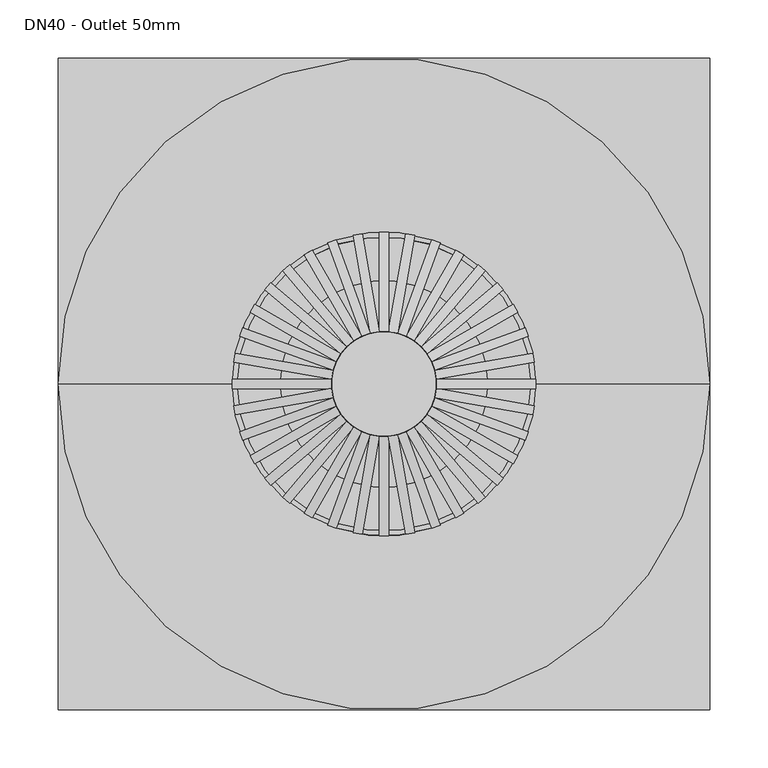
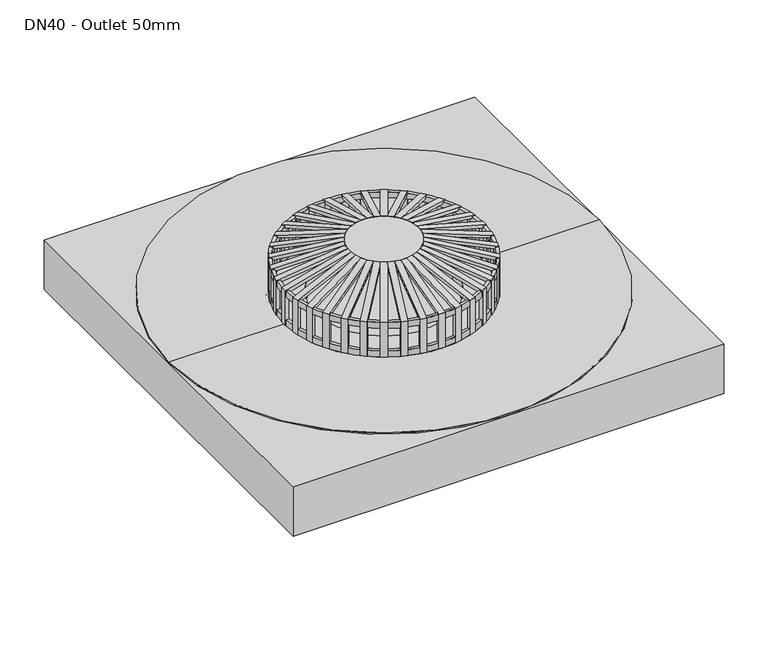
"""IFC4 building model written with IfcOpenShell, lengths in millimetres: sanitary terminal geometry, NLRS_52_PF_UN_Vacurain Flex trechter tbv PVC_Dyka : DN40 - Outlet 50mm."""

from ifc_helpers import new_model, si_unit, point, frame, origin, origin_with_axes, origin_2d, place, context, project, spatial, polyline, circle_curve, trimmed, segment, composite_curve, outline, extrude, source, transform, mapped, element, save
from ifc_brep_helpers import plane_surface, cylinder_surface, revolved_surface, advanced_brep


def dn40_outlet_50mm_e4824a1d(model_context):
    return source(origin(), model_context, "Body", "SolidModel", [
        advanced_brep(
        [(89.0, 0.0, -51.0), (89.0, 0.0, -24.0), (-89.0, 0.0, -24.0), (-89.0, 0.0, -51.0), (-57.0, 0.0, -51.0), (57.0, 0.0, -51.0), (-25.0, 0.0, -64.0), (25.0, 0.0, -64.0), (-25.0, 0.0, -70.0), (25.0, 0.0, -70.0), (133.5, 0.0, -24.0), (133.5, 0.0, -2.0), (-133.5, 0.0, -2.0), (-133.5, 0.0, -24.0), (280.0, 280.0, -2.0), (0.0, 280.0, -2.0), (-280.0, 280.0, -2.0), (-280.0, 0.0, -2.0), (-280.0, -280.0, -2.0), (0.0, -280.0, -2.0), (280.0, -280.0, -2.0), (280.0, 0.0, -2.0), (280.0, 280.0, -70.0), (280.0, -280.0, -70.0), (-280.0, -280.0, -70.0), (-280.0, 280.0, -70.0)],
        [
            (0, 1),
            (1, 2, circle_curve(frame((0.0, 0.0, -24.0), z_axis=(0.0, 0.0, 1.0), x_axis=(-1.0, 0.0, 0.0)), 89.0)),
            (2, 3),
            (3, 0, circle_curve(frame((0.0, 0.0, -51.0), z_axis=(0.0, 0.0, -1.0), x_axis=(-1.0, 0.0, 0.0)), 89.0)),
            (0, 3, circle_curve(frame((0.0, 0.0, -51.0), z_axis=(0.0, 0.0, -1.0), x_axis=(-1.0, 0.0, 0.0)), 89.0)),
            (2, 1, circle_curve(frame((0.0, 0.0, -24.0), z_axis=(0.0, 0.0, 1.0), x_axis=(-1.0, 0.0, 0.0)), 89.0)),
            (3, 4),
            (4, 5, circle_curve(frame((0.0, 0.0, -51.0), z_axis=(0.0, 0.0, -1.0), x_axis=(-1.0, 0.0, 0.0)), 57.0)),
            (5, 0),
            (5, 4, circle_curve(frame((0.0, 0.0, -51.0), z_axis=(0.0, 0.0, -1.0), x_axis=(-1.0, 0.0, 0.0)), 57.0)),
            (4, 6),
            (6, 7, circle_curve(frame((0.0, 0.0, -64.0), z_axis=(0.0, 0.0, -1.0), x_axis=(-1.0, 0.0, 0.0)), 25.0)),
            (7, 5),
            (7, 6, circle_curve(frame((0.0, 0.0, -64.0), z_axis=(0.0, 0.0, -1.0), x_axis=(-1.0, 0.0, 0.0)), 25.0)),
            (6, 8),
            (8, 9, circle_curve(frame((0.0, 0.0, -70.0), z_axis=(0.0, 0.0, -1.0), x_axis=(-1.0, 0.0, 0.0)), 25.0)),
            (9, 7),
            (9, 8, circle_curve(frame((0.0, 0.0, -70.0), z_axis=(0.0, 0.0, -1.0), x_axis=(-1.0, 0.0, 0.0)), 25.0)),
            (10, 11),
            (11, 12, circle_curve(frame((0.0, 0.0, -2.0), z_axis=(0.0, 0.0, 1.0), x_axis=(-1.0, 0.0, 0.0)), 133.5)),
            (12, 13),
            (13, 10, circle_curve(frame((0.0, 0.0, -24.0), z_axis=(0.0, 0.0, -1.0), x_axis=(-1.0, 0.0, 0.0)), 133.5)),
            (10, 13, circle_curve(frame((0.0, 0.0, -24.0), z_axis=(0.0, 0.0, -1.0), x_axis=(-1.0, 0.0, 0.0)), 133.5)),
            (12, 11, circle_curve(frame((0.0, 0.0, -2.0), z_axis=(0.0, 0.0, 1.0), x_axis=(-1.0, 0.0, 0.0)), 133.5)),
            (1, 10),
            (13, 2),
            (14, 15),
            (15, 16),
            (16, 17),
            (17, 18),
            (18, 19),
            (19, 20),
            (20, 21),
            (21, 14),
            (22, 23),
            (23, 24),
            (24, 25),
            (25, 22),
            (25, 16),
            (14, 22),
            (24, 18),
            (23, 20),
        ],
        [
            revolved_surface(polyline([(-89.0, 0.0, -51.0), (-89.0, 0.0, -24.0)]), (0.0, 0.0, 2214.3150031), (0.0, 0.0, -1.0)),
            plane_surface(frame((0.0, 0.0, -51.0), z_axis=(0.0, 0.0, 1.0), x_axis=(-1.0, 0.0, 0.0))),
            revolved_surface(polyline([(-25.0, 0.0, -64.0), (-57.0, 0.0, -51.0)]), (0.0, 0.0, 2214.3150031), (0.0, 0.0, -1.0)),
            revolved_surface(polyline([(-25.0, 0.0, -70.0), (-25.0, 0.0, -64.0)]), (0.0, 0.0, 2214.3150031), (0.0, 0.0, -1.0)),
            revolved_surface(polyline([(-133.5, 0.0, -24.0), (-133.5, 0.0, -2.0)]), (0.0, 0.0, 2214.3150031), (0.0, 0.0, -1.0)),
            plane_surface(frame((0.0, 0.0, -24.0), z_axis=(0.0, 0.0, 1.0), x_axis=(-1.0, 0.0, 0.0))),
            plane_surface(frame((-280.0, 280.0, -2.0), z_axis=(0.0, 0.0, 1.0), x_axis=(-1.0, 0.0, 0.0))),
            plane_surface(frame((-280.0, 280.0, -70.0), z_axis=(0.0, 0.0, -1.0), x_axis=(1.0, 0.0, 0.0))),
            plane_surface(frame((280.0, 280.0, -2.0), z_axis=(0.0, 1.0, 0.0), x_axis=(0.0, 0.0, -1.0))),
            plane_surface(frame((-280.0, 280.0, -2.0), z_axis=(-1.0, 0.0, 0.0), x_axis=(0.0, 0.0, -1.0))),
            plane_surface(frame((-280.0, -280.0, -2.0), z_axis=(0.0, -1.0, 0.0), x_axis=(0.0, 0.0, -1.0))),
            plane_surface(frame((280.0, -280.0, -2.0), z_axis=(1.0, 0.0, 0.0), x_axis=(0.0, 0.0, -1.0))),
        ],
        [
            (0, [[1, 2, 3, 4]]),
            (0, [[-1, 5, -3, 6]]),
            (1, [[-4, 7, 8, 9]]),
            (1, [[-5, -9, 10, -7]]),
            (2, [[-8, 11, 12, 13]]),
            (2, [[-10, -13, 14, -11]]),
            (3, [[-12, 15, 16, 17]]),
            (3, [[-14, -17, 18, -15]]),
            (4, [[19, 20, 21, 22]]),
            (4, [[-19, 23, -21, 24]]),
            (5, [[-2, 25, -22, 26]]),
            (5, [[-6, -26, -23, -25]]),
            (6, [[27, 28, 29, 30, 31, 32, 33, 34], [-20, -24]]),
            (7, [[35, 36, 37, 38], [-16, -18]]),
            (8, [[-38, 39, -28, -27, 40]]),
            (9, [[-37, 41, -30, -29, -39]]),
            (10, [[-36, 42, -32, -31, -41]]),
            (11, [[-35, -40, -34, -33, -42]]),
        ],
    ),
        extrude(outline(polyline([(0.0, -4.0), (0.0, 0.0), (44.2901338, 0.0), (67.144961, 82.5670868), (71.0, 81.5), (47.3333333, -4.0), (0.0, -4.0)])), frame((-120.2391971, 39.5067776, 0.0), z_axis=(0.3420201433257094, 0.9396926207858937, 0.0), x_axis=(0.0, 0.0, 1.0)), (0.0, 0.0, 1.0), 8.0),
        extrude(outline(polyline([(0.0, -4.0), (0.0, 0.0), (44.2901338, 0.0), (67.144961, 82.5670868), (71.0, 81.5), (47.3333333, -4.0), (0.0, -4.0)])), frame((-111.5522136, 59.7858984, 0.0), z_axis=(0.5000000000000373, 0.8660254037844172, 0.0), x_axis=(0.0, 0.0, 1.0)), (0.0, 0.0, 1.0), 8.0),
        extrude(outline(polyline([(0.0, -4.0), (0.0, 0.0), (44.2901338, 0.0), (67.144961, 82.5670868), (71.0, 81.5), (47.3333333, -4.0), (0.0, -4.0)])), frame((-99.4757725, 78.2484549, 0.0), z_axis=(0.6427876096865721, 0.7660444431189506, 0.0), x_axis=(0.0, 0.0, 1.0)), (0.0, 0.0, 1.0), 8.0),
        extrude(outline(polyline([(0.0, -4.0), (0.0, 0.0), (44.2901338, 0.0), (67.144961, 82.5670868), (71.0, 81.5), (47.3333333, -4.0), (0.0, -4.0)])), frame((-84.3768104, 94.3334716, 0.0), z_axis=(0.7660444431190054, 0.6427876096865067, 0.0), x_axis=(0.0, 0.0, 1.0)), (0.0, 0.0, 1.0), 8.0),
        extrude(outline(polyline([(0.0, -4.0), (0.0, 0.0), (44.2901338, 0.0), (67.144961, 82.5670868), (71.0, 81.5), (47.3333333, -4.0), (0.0, -4.0)])), frame((-66.7141016, 107.5522136, 0.0), z_axis=(0.8660254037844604, 0.49999999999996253, 0.0), x_axis=(0.0, 0.0, 1.0)), (0.0, 0.0, 1.0), 8.0),
        extrude(outline(polyline([(0.0, -3.9999999), (0.0, 0.0), (44.2901338, 0.0), (67.144961, 82.5670868), (71.0, 81.5), (47.3333333, -3.9999999), (0.0, -3.9999999)])), frame((-47.0243186, 117.503036, 0.0), z_axis=(0.9396926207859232, 0.34202014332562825, 0.0), x_axis=(0.0, 0.0, 1.0)), (0.0, 0.0, 1.0), 8.0),
        extrude(outline(polyline([(0.0, -4.0000001), (0.0, 0.0), (44.2901338, 0.0), (67.144961, 82.5670868), (71.0, 81.4999999), (47.3333333, -4.0000001), (0.0, -4.0000001)])), frame((-25.9057255, 123.883588, 0.0), z_axis=(0.9848077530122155, 0.17364817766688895, 0.0), x_axis=(0.0, 0.0, 1.0)), (0.0, 0.0, 1.0), 8.0),
        extrude(outline(polyline([(130.5, 0.0), (126.5, 0.0), (126.5, 44.2901338), (43.9329132, 67.144961), (45.0, 71.0), (130.5, 47.3333333), (130.5, 0.0)])), frame((-4.0, 0.0, 0.0), z_axis=(1.0, 0.0, 0.0), x_axis=(0.0, 1.0, 0.0)), (0.0, 0.0, 1.0), 8.0),
        extrude(outline(polyline([(0.0, -4.0000001), (0.0, 0.0), (47.3333333, 0.0), (71.0, -85.5), (67.144961, -86.5670869), (44.2901338, -4.0000001), (0.0, -4.0000001)])), frame((26.6003182, 127.8228191, 0.0), z_axis=(-0.9848077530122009, 0.1736481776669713, 0.0), x_axis=(0.0, 0.0, 1.0)), (0.0, 0.0, 1.0), 8.0),
        extrude(outline(polyline([(0.0, -3.9999999), (0.0, 0.0), (47.3333333, 0.0), (71.0, -85.4999999), (67.144961, -86.5670868), (44.2901338, -3.9999999), (0.0, -3.9999999)])), frame((48.3923992, 121.2618064, 0.0), z_axis=(-0.9396926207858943, 0.3420201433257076, 0.0), x_axis=(0.0, 0.0, 1.0)), (0.0, 0.0, 1.0), 8.0),
        extrude(outline(polyline([(0.0, -4.0), (0.0, 0.0), (47.3333333, 0.0), (71.0, -85.5), (67.144961, -86.5670868), (44.2901338, -4.0), (0.0, -4.0)])), frame((68.7141016, 111.0163152, 0.0), z_axis=(-0.8660254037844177, 0.5000000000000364, 0.0), x_axis=(0.0, 0.0, 1.0)), (0.0, 0.0, 1.0), 8.0),
        extrude(outline(polyline([(0.0, -4.0), (0.0, 0.0), (47.3333333, 0.0), (71.0, -85.5), (67.144961, -86.5670868), (44.2901338, -4.0), (0.0, -4.0)])), frame((86.9479608, 97.3976494, 0.0), z_axis=(-0.7660444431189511, 0.6427876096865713, 0.0), x_axis=(0.0, 0.0, 1.0)), (0.0, 0.0, 1.0), 8.0),
        extrude(outline(polyline([(0.0, -4.0), (0.0, 0.0), (47.3333333, 0.0), (71.0, -85.5), (67.144961, -86.5670868), (44.2901338, -4.0), (0.0, -4.0)])), frame((102.5399503, 80.8196053, 0.0), z_axis=(-0.642787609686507, 0.7660444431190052, 0.0), x_axis=(0.0, 0.0, 1.0)), (0.0, 0.0, 1.0), 8.0),
        extrude(outline(polyline([(0.0, -4.0), (0.0, 0.0), (47.3333333, 0.0), (71.0, -85.5), (67.144961, -86.5670868), (44.2901338, -4.0), (0.0, -4.0)])), frame((115.0163152, 61.7858984, 0.0), z_axis=(-0.4999999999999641, 0.8660254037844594, 0.0), x_axis=(0.0, 0.0, 1.0)), (0.0, 0.0, 1.0), 8.0),
        extrude(outline(polyline([(0.0, -4.0), (0.0, 0.0), (47.3333333, 0.0), (71.0, -85.5), (67.144961, -86.5670868), (44.2901338, -4.0), (0.0, -4.0)])), frame((123.9979676, 40.8748582, 0.0), z_axis=(-0.3420201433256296, 0.9396926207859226, 0.0), x_axis=(0.0, 0.0, 1.0)), (0.0, 0.0, 1.0), 8.0),
        extrude(outline(polyline([(0.0, -4.0), (0.0, 0.0), (47.3333333, 0.0), (71.0, -85.5), (67.144961, -86.5670869), (44.2901338, -4.0), (0.0, -4.0)])), frame((129.2120045, 18.7218562, 0.0), z_axis=(-0.17364817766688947, 0.9848077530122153, 0.0), x_axis=(0.0, 0.0, 1.0)), (0.0, 0.0, 1.0), 8.0),
        extrude(outline(polyline([(0.0, 126.5), (0.0, 130.5), (47.3333333, 130.5), (71.0, 45.0), (67.144961, 43.9329132), (44.2901338, 126.5), (0.0, 126.5)])), frame((0.0, -4.0, 0.0), z_axis=(0.0, 1.0, 0.0), x_axis=(0.0, 0.0, 1.0)), (0.0, 0.0, 1.0), 8.0),
        extrude(outline(polyline([(0.0, -4.0000001), (0.0, 0.0), (47.3333333, 0.0), (71.0, -85.5), (67.144961, -86.5670869), (44.2901338, -4.0000001), (0.0, -4.0000001)])), frame((127.8228191, -26.6003182, 0.0), z_axis=(0.17364817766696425, 0.9848077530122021, 0.0), x_axis=(0.0, 0.0, 1.0)), (0.0, 0.0, 1.0), 8.0),
        extrude(outline(polyline([(0.0, -3.9999999), (0.0, 0.0), (47.3333333, 0.0), (71.0, -85.4999999), (67.144961, -86.5670868), (44.2901338, -3.9999999), (0.0, -3.9999999)])), frame((121.2618064, -48.3923992, 0.0), z_axis=(0.3420201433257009, 0.9396926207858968, 0.0), x_axis=(0.0, 0.0, 1.0)), (0.0, 0.0, 1.0), 8.0),
        extrude(outline(polyline([(0.0, -4.0), (0.0, 0.0), (47.3333333, 0.0), (71.0, -85.5), (67.144961, -86.5670868), (44.2901338, -4.0), (0.0, -4.0)])), frame((111.0163152, -68.7141016, 0.0), z_axis=(0.5000000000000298, 0.8660254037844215, 0.0), x_axis=(0.0, 0.0, 1.0)), (0.0, 0.0, 1.0), 8.0),
        extrude(outline(polyline([(0.0, -4.0), (0.0, 0.0), (47.3333333, 0.0), (71.0, -85.5), (67.144961, -86.5670868), (44.2901338, -4.0), (0.0, -4.0)])), frame((97.3976494, -86.9479608, 0.0), z_axis=(0.6427876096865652, 0.7660444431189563, 0.0), x_axis=(0.0, 0.0, 1.0)), (0.0, 0.0, 1.0), 8.0),
        extrude(outline(polyline([(0.0, -4.0), (0.0, 0.0), (47.3333333, 0.0), (71.0, -85.5), (67.144961, -86.5670868), (44.2901338, -4.0), (0.0, -4.0)])), frame((80.8196053, -102.5399503, 0.0), z_axis=(0.7660444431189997, 0.6427876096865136, 0.0), x_axis=(0.0, 0.0, 1.0)), (0.0, 0.0, 1.0), 8.0),
        extrude(outline(polyline([(0.0, -4.0), (0.0, 0.0), (47.3333333, 0.0), (71.0, -85.5), (67.144961, -86.5670868), (44.2901338, -4.0), (0.0, -4.0)])), frame((61.7858984, -115.0163152, 0.0), z_axis=(0.8660254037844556, 0.49999999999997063, 0.0), x_axis=(0.0, 0.0, 1.0)), (0.0, 0.0, 1.0), 8.0),
        extrude(outline(polyline([(0.0, -4.0), (0.0, 0.0), (47.3333333, 0.0), (71.0, -85.5), (67.144961, -86.5670868), (44.2901338, -4.0), (0.0, -4.0)])), frame((40.8748582, -123.9979676, 0.0), z_axis=(0.93969262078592, 0.3420201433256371, 0.0), x_axis=(0.0, 0.0, 1.0)), (0.0, 0.0, 1.0), 8.0),
        extrude(outline(polyline([(0.0, -4.0), (0.0, 0.0), (47.3333333, 0.0), (71.0, -85.5), (67.144961, -86.5670869), (44.2901338, -4.0), (0.0, -4.0)])), frame((18.7218562, -129.2120045, 0.0), z_axis=(0.9848077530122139, 0.1736481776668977, 0.0), x_axis=(0.0, 0.0, 1.0)), (0.0, 0.0, 1.0), 8.0),
        extrude(outline(polyline([(-126.5, 0.0), (-130.5, 0.0), (-130.5, 47.3333333), (-45.0, 71.0), (-43.9329132, 67.144961), (-126.5, 44.2901338), (-126.5, 0.0)])), frame((-4.0, 0.0, 0.0), z_axis=(1.0, 0.0, 0.0), x_axis=(0.0, 1.0, 0.0)), (0.0, 0.0, 1.0), 8.0),
        extrude(outline(polyline([(0.0, -4.0), (0.0, 0.0), (44.2901338, 0.0), (67.144961, 82.5670869), (71.0, 81.5), (47.3333333, -4.0), (0.0, -4.0)])), frame((-18.0272635, -125.2727735, 0.0), z_axis=(-0.9848077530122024, 0.1736481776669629, 0.0), x_axis=(0.0, 0.0, 1.0)), (0.0, 0.0, 1.0), 8.0),
        extrude(outline(polyline([(0.0, -4.0), (0.0, 0.0), (44.2901338, 0.0), (67.144961, 82.5670868), (71.0, 81.5), (47.3333333, -4.0), (0.0, -4.0)])), frame((-39.5067776, -120.2391971, 0.0), z_axis=(-0.9396926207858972, 0.3420201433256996, 0.0), x_axis=(0.0, 0.0, 1.0)), (0.0, 0.0, 1.0), 8.0),
        extrude(outline(polyline([(0.0, -4.0), (0.0, 0.0), (44.2901338, 0.0), (67.144961, 82.5670868), (71.0, 81.5), (47.3333333, -4.0), (0.0, -4.0)])), frame((-59.7858984, -111.5522136, 0.0), z_axis=(-0.8660254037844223, 0.5000000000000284, 0.0), x_axis=(0.0, 0.0, 1.0)), (0.0, 0.0, 1.0), 8.0),
        extrude(outline(polyline([(0.0, -4.0), (0.0, 0.0), (44.2901338, 0.0), (67.144961, 82.5670868), (71.0, 81.5), (47.3333333, -4.0), (0.0, -4.0)])), frame((-78.2484549, -99.4757725, 0.0), z_axis=(-0.7660444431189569, 0.6427876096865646, 0.0), x_axis=(0.0, 0.0, 1.0)), (0.0, 0.0, 1.0), 8.0),
        extrude(outline(polyline([(0.0, -4.0), (0.0, 0.0), (44.2901338, 0.0), (67.144961, 82.5670868), (71.0, 81.5), (47.3333333, -4.0), (0.0, -4.0)])), frame((-94.3334716, -84.3768104, 0.0), z_axis=(-0.6427876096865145, 0.7660444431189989, 0.0), x_axis=(0.0, 0.0, 1.0)), (0.0, 0.0, 1.0), 8.0),
        extrude(outline(polyline([(0.0, -4.0), (0.0, 0.0), (44.2901338, 0.0), (67.144961, 82.5670868), (71.0, 81.5), (47.3333333, -4.0), (0.0, -4.0)])), frame((-107.5522136, -66.7141016, 0.0), z_axis=(-0.499999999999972, 0.8660254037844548, 0.0), x_axis=(0.0, 0.0, 1.0)), (0.0, 0.0, 1.0), 8.0),
        extrude(outline(polyline([(0.0, -3.9999999), (0.0, 0.0), (44.2901338, 0.0), (67.144961, 82.5670868), (71.0, 81.5), (47.3333333, -3.9999999), (0.0, -3.9999999)])), frame((-117.503036, -47.0243186, 0.0), z_axis=(-0.34202014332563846, 0.9396926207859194, 0.0), x_axis=(0.0, 0.0, 1.0)), (0.0, 0.0, 1.0), 8.0),
        extrude(outline(polyline([(0.0, -4.0000001), (0.0, 0.0), (44.2901338, 0.0), (67.144961, 82.5670868), (71.0, 81.4999999), (47.3333333, -4.0000001), (0.0, -4.0000001)])), frame((-123.883588, -25.9057255, 0.0), z_axis=(-0.1736481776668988, 0.9848077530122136, 0.0), x_axis=(0.0, 0.0, 1.0)), (0.0, 0.0, 1.0), 8.0),
        extrude(outline(polyline([(0.0, -4.0), (0.0, 0.0), (44.2901338, 0.0), (67.144961, 82.5670869), (71.0, 81.5), (47.3333333, -4.0), (0.0, -4.0)])), frame((-125.2727735, 18.0272635, 0.0), z_axis=(0.17364817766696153, 0.9848077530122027, 0.0), x_axis=(0.0, 0.0, 1.0)), (0.0, 0.0, 1.0), 8.0),
        extrude(outline(polyline([(0.0, -130.5), (0.0, -126.5), (44.2901338, -126.5), (67.144961, -43.9329132), (71.0, -45.0), (47.3333333, -130.5), (0.0, -130.5)])), frame((0.0, -4.0, 0.0), z_axis=(0.0, 1.0, 0.0), x_axis=(0.0, 0.0, 1.0)), (0.0, 0.0, 1.0), 8.0),
        extrude(outline(composite_curve([segment(trimmed(circle_curve(origin_2d(), 45.0), [point((-45.0, 0.0))], [point((45.0, 0.0))], False, "CARTESIAN"), True, "CONTINUOUS"), segment(trimmed(circle_curve(origin_2d(), 45.0), [point((45.0, 0.0))], [point((-45.0, 0.0))], False, "CARTESIAN"), True, "CONTINUOUS")], self_intersect=False)), frame((0.0, 0.0, 63.0), z_axis=(0.0, 0.0, 1.0), x_axis=(1.0, 0.0, 0.0)), (0.0, 0.0, 1.0), 8.0),
        advanced_brep(
        [(-130.5, 0.0, 0.0), (130.5, 0.0, 0.0), (126.5, 0.0, 0.0), (-126.5, 0.0, 0.0), (-130.5, 0.0, 8.0), (130.5, 0.0, 8.0), (-126.5, 0.0, 8.0), (126.5, 0.0, 8.0)],
        [
            (0, 1, circle_curve(frame((0.0, 0.0, 0.0), z_axis=(0.0, 0.0, -1.0), x_axis=(1.0, 0.0, 0.0)), 130.5)),
            (1, 2),
            (2, 3, circle_curve(origin_with_axes(), 126.5)),
            (3, 0),
            (1, 0, circle_curve(frame((0.0, 0.0, 0.0), z_axis=(0.0, 0.0, -1.0), x_axis=(1.0, 0.0, 0.0)), 130.5)),
            (3, 2, circle_curve(origin_with_axes(), 126.5)),
            (4, 5, circle_curve(frame((0.0, 0.0, 8.0), z_axis=(0.0, 0.0, -1.0), x_axis=(1.0, 0.0, 0.0)), 130.5)),
            (5, 1),
            (0, 4),
            (5, 4, circle_curve(frame((0.0, 0.0, 8.0), z_axis=(0.0, 0.0, -1.0), x_axis=(1.0, 0.0, 0.0)), 130.5)),
            (6, 7, circle_curve(frame((0.0, 0.0, 8.0), z_axis=(0.0, 0.0, -1.0), x_axis=(1.0, 0.0, 0.0)), 126.5)),
            (7, 5),
            (4, 6),
            (7, 6, circle_curve(frame((0.0, 0.0, 8.0), z_axis=(0.0, 0.0, -1.0), x_axis=(1.0, 0.0, 0.0)), 126.5)),
            (2, 7),
            (6, 3),
        ],
        [
            plane_surface(frame((0.0, 0.0, 0.0), z_axis=(0.0, 0.0, -1.0), x_axis=(1.0, 0.0, 0.0))),
            cylinder_surface(frame((0.0, 0.0, 2214.3150031), z_axis=(0.0, 0.0, 1.0), x_axis=(1.0, 0.0, 0.0)), 130.5),
            plane_surface(frame((0.0, 0.0, 8.0), z_axis=(0.0, 0.0, 1.0), x_axis=(1.0, 0.0, 0.0))),
            revolved_surface(polyline([(126.5, 0.0, 8.0), (126.5, 0.0, 0.0)]), (0.0, 0.0, 2214.3150031), (0.0, 0.0, 1.0)),
        ],
        [
            (0, [[1, 2, 3, 4]]),
            (0, [[5, -4, 6, -2]]),
            (1, [[7, 8, -1, 9]]),
            (1, [[10, -9, -5, -8]]),
            (2, [[11, 12, -7, 13]]),
            (2, [[14, -13, -10, -12]]),
            (3, [[-3, 15, -11, 16]]),
            (3, [[-6, -16, -14, -15]]),
        ],
    ),
        advanced_brep(
        [(-130.5, 0.0, 39.3333333), (130.5, 0.0, 39.3333333), (126.5, 0.0, 39.3333333), (-126.5, 0.0, 39.3333333), (-130.5, 0.0, 47.3333333), (130.5, 0.0, 47.3333333), (-126.5, 0.0, 47.3333333), (126.5, 0.0, 47.3333333)],
        [
            (0, 1, circle_curve(frame((0.0, 0.0, 39.3333333), z_axis=(0.0, 0.0, -1.0), x_axis=(1.0, 0.0, 0.0)), 130.5)),
            (1, 2),
            (2, 3, circle_curve(frame((0.0, 0.0, 39.3333333), z_axis=(0.0, 0.0, 1.0), x_axis=(1.0, 0.0, 0.0)), 126.5)),
            (3, 0),
            (1, 0, circle_curve(frame((0.0, 0.0, 39.3333333), z_axis=(0.0, 0.0, -1.0), x_axis=(1.0, 0.0, 0.0)), 130.5)),
            (3, 2, circle_curve(frame((0.0, 0.0, 39.3333333), z_axis=(0.0, 0.0, 1.0), x_axis=(1.0, 0.0, 0.0)), 126.5)),
            (4, 5, circle_curve(frame((0.0, 0.0, 47.3333333), z_axis=(0.0, 0.0, -1.0), x_axis=(1.0, 0.0, 0.0)), 130.5)),
            (5, 1),
            (0, 4),
            (5, 4, circle_curve(frame((0.0, 0.0, 47.3333333), z_axis=(0.0, 0.0, -1.0), x_axis=(1.0, 0.0, 0.0)), 130.5)),
            (6, 7, circle_curve(frame((0.0, 0.0, 47.3333333), z_axis=(0.0, 0.0, -1.0), x_axis=(1.0, 0.0, 0.0)), 126.5)),
            (7, 5),
            (4, 6),
            (7, 6, circle_curve(frame((0.0, 0.0, 47.3333333), z_axis=(0.0, 0.0, -1.0), x_axis=(1.0, 0.0, 0.0)), 126.5)),
            (2, 7),
            (6, 3),
        ],
        [
            plane_surface(frame((0.0, 0.0, 39.3333333), z_axis=(0.0, 0.0, -1.0), x_axis=(1.0, 0.0, 0.0))),
            cylinder_surface(frame((0.0, 0.0, 2214.3150031), z_axis=(0.0, 0.0, 1.0), x_axis=(1.0, 0.0, 0.0)), 130.5),
            plane_surface(frame((0.0, 0.0, 47.3333333), z_axis=(0.0, 0.0, 1.0), x_axis=(1.0, 0.0, 0.0))),
            revolved_surface(polyline([(126.5, 0.0, 47.33333330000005), (126.5, 0.0, 39.33333330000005)]), (0.0, 0.0, 2214.3150031), (0.0, 0.0, 1.0)),
        ],
        [
            (0, [[1, 2, 3, 4]]),
            (0, [[5, -4, 6, -2]]),
            (1, [[7, 8, -1, 9]]),
            (1, [[10, -9, -5, -8]]),
            (2, [[11, 12, -7, 13]]),
            (2, [[14, -13, -10, -12]]),
            (3, [[-3, 15, -11, 16]]),
            (3, [[-6, -16, -14, -15]]),
        ],
    ),
        extrude(outline(composite_curve([segment(trimmed(circle_curve(origin_2d(), 130.5), [point((-130.5, 0.0))], [point((130.5, 0.0))], False, "CARTESIAN"), True, "CONTINUOUS"), segment(trimmed(circle_curve(origin_2d(), 130.5), [point((130.5, 0.0))], [point((-130.5, 0.0))], False, "CARTESIAN"), True, "CONTINUOUS")], self_intersect=False), holes=[composite_curve([segment(trimmed(circle_curve(origin_2d(), 89.0), [point((-89.0, 0.0))], [point((89.0, 0.0))], True, "CARTESIAN"), True, "CONTINUOUS"), segment(trimmed(circle_curve(origin_2d(), 89.0), [point((89.0, 0.0))], [point((-89.0, 0.0))], True, "CARTESIAN"), True, "CONTINUOUS")], self_intersect=False)]), frame((0.0, 0.0, -23.0), z_axis=(0.0, 0.0, 1.0), x_axis=(1.0, 0.0, 0.0)), (0.0, 0.0, 1.0), 23.0),
        advanced_brep(
        [(280.0, 0.0, 0.0), (-280.0, 0.0, 0.0), (-130.5, 0.0, 0.0), (130.5, 0.0, 0.0), (89.0, 0.0, -51.0), (-89.0, 0.0, -51.0), (-89.0, 0.0, -24.0), (89.0, 0.0, -24.0), (57.0, 0.0, -51.0), (-57.0, 0.0, -51.0), (25.0, 0.0, -64.0), (-25.0, 0.0, -64.0), (25.0, 0.0, -161.0), (-25.0, 0.0, -161.0), (0.0, 0.0, -161.0), (-105.1648088, 41.9038358, -4.0), (-97.1648088, 41.9038358, -4.0), (-105.1648088, -41.9038358, -4.0), (-97.1648088, -41.9038358, -4.0), (97.1648088, 41.9038358, -4.0), (105.1648088, 41.9038358, -4.0), (97.1648088, -41.9038358, -4.0), (105.1648088, -41.9038358, -4.0), (-45.9038358, -101.1648088, -4.0), (-37.9038358, -101.1648088, -4.0), (37.9038358, -101.1648088, -4.0), (45.9038358, -101.1648088, -4.0), (-45.9038358, 101.1648088, -4.0), (-37.9038358, 101.1648088, -4.0), (37.9038358, 101.1648088, -4.0), (45.9038358, 101.1648088, -4.0), (-105.1648088, 41.9038358, -23.0), (-97.1648088, 41.9038358, -23.0), (-105.1648088, -41.9038358, -23.0), (-97.1648088, -41.9038358, -23.0), (97.1648088, 41.9038358, -23.0), (105.1648088, 41.9038358, -23.0), (97.1648088, -41.9038358, -23.0), (105.1648088, -41.9038358, -23.0), (-45.9038358, -101.1648088, -23.0), (-37.9038358, -101.1648088, -23.0), (37.9038358, -101.1648088, -23.0), (45.9038358, -101.1648088, -23.0), (-45.9038358, 101.1648088, -23.0), (-37.9038358, 101.1648088, -23.0), (37.9038358, 101.1648088, -23.0), (45.9038358, 101.1648088, -23.0), (133.5, 0.0, -24.0), (-133.5, 0.0, -24.0), (-133.5, 0.0, -2.0), (133.5, 0.0, -2.0), (280.0, 0.0, -2.0), (-280.0, 0.0, -2.0), (-130.5, 0.0, -23.0), (130.5, 0.0, -23.0)],
        [
            (0, 1, circle_curve(frame((0.0, 0.0, 0.0), z_axis=(0.0, 0.0, 1.0), x_axis=(-1.0, 0.0, 0.0)), 280.0)),
            (1, 2),
            (2, 3, circle_curve(frame((0.0, 0.0, 0.0), z_axis=(0.0, 0.0, -1.0), x_axis=(1.0, 0.0, 0.0)), 130.5)),
            (3, 0),
            (1, 0, circle_curve(frame((0.0, 0.0, 0.0), z_axis=(0.0, 0.0, 1.0), x_axis=(-1.0, 0.0, 0.0)), 280.0)),
            (3, 2, circle_curve(frame((0.0, 0.0, 0.0), z_axis=(0.0, 0.0, -1.0), x_axis=(1.0, 0.0, 0.0)), 130.5)),
            (4, 5, circle_curve(frame((0.0, 0.0, -51.0), z_axis=(0.0, 0.0, 1.0), x_axis=(-1.0, 0.0, 0.0)), 89.0)),
            (5, 6),
            (6, 7, circle_curve(frame((0.0, 0.0, -24.0), z_axis=(0.0, 0.0, -1.0), x_axis=(-1.0, 0.0, 0.0)), 89.0)),
            (7, 4),
            (5, 4, circle_curve(frame((0.0, 0.0, -51.0), z_axis=(0.0, 0.0, 1.0), x_axis=(-1.0, 0.0, 0.0)), 89.0)),
            (7, 6, circle_curve(frame((0.0, 0.0, -24.0), z_axis=(0.0, 0.0, -1.0), x_axis=(-1.0, 0.0, 0.0)), 89.0)),
            (4, 8),
            (8, 9, circle_curve(frame((0.0, 0.0, -51.0), z_axis=(0.0, 0.0, 1.0), x_axis=(-1.0, 0.0, 0.0)), 57.0)),
            (9, 5),
            (9, 8, circle_curve(frame((0.0, 0.0, -51.0), z_axis=(0.0, 0.0, 1.0), x_axis=(-1.0, 0.0, 0.0)), 57.0)),
            (8, 10),
            (10, 11, circle_curve(frame((0.0, 0.0, -64.0), z_axis=(0.0, 0.0, 1.0), x_axis=(-1.0, 0.0, 0.0)), 25.0)),
            (11, 9),
            (11, 10, circle_curve(frame((0.0, 0.0, -64.0), z_axis=(0.0, 0.0, 1.0), x_axis=(-1.0, 0.0, 0.0)), 25.0)),
            (10, 12),
            (12, 13, circle_curve(frame((0.0, 0.0, -161.0), z_axis=(0.0, 0.0, 1.0), x_axis=(-1.0, 0.0, 0.0)), 25.0)),
            (13, 11),
            (13, 12, circle_curve(frame((0.0, 0.0, -161.0), z_axis=(0.0, 0.0, 1.0), x_axis=(-1.0, 0.0, 0.0)), 25.0)),
            (12, 14),
            (14, 13),
            (15, 16, circle_curve(frame((-101.1648088, 41.9038358, -4.0), z_axis=(0.0, 0.0, 1.0), x_axis=(1.0, 0.0, 0.0)), 4.0)),
            (16, 15, circle_curve(frame((-101.1648088, 41.9038358, -4.0), z_axis=(0.0, 0.0, 1.0), x_axis=(1.0, 0.0, 0.0)), 4.0)),
            (17, 18, circle_curve(frame((-101.1648088, -41.9038358, -4.0), z_axis=(0.0, 0.0, 1.0), x_axis=(1.0, 0.0, 0.0)), 4.0)),
            (18, 17, circle_curve(frame((-101.1648088, -41.9038358, -4.0), z_axis=(0.0, 0.0, 1.0), x_axis=(1.0, 0.0, 0.0)), 4.0)),
            (19, 20, circle_curve(frame((101.1648088, 41.9038358, -4.0), z_axis=(0.0, 0.0, 1.0), x_axis=(1.0, 0.0, 0.0)), 4.0)),
            (20, 19, circle_curve(frame((101.1648088, 41.9038358, -4.0), z_axis=(0.0, 0.0, 1.0), x_axis=(1.0, 0.0, 0.0)), 4.0)),
            (21, 22, circle_curve(frame((101.1648088, -41.9038358, -4.0), z_axis=(0.0, 0.0, 1.0), x_axis=(1.0, 0.0, 0.0)), 4.0)),
            (22, 21, circle_curve(frame((101.1648088, -41.9038358, -4.0), z_axis=(0.0, 0.0, 1.0), x_axis=(1.0, 0.0, 0.0)), 4.0)),
            (23, 24, circle_curve(frame((-41.9038358, -101.1648088, -4.0), z_axis=(0.0, 0.0, 1.0), x_axis=(1.0, 0.0, 0.0)), 4.0)),
            (24, 23, circle_curve(frame((-41.9038358, -101.1648088, -4.0), z_axis=(0.0, 0.0, 1.0), x_axis=(1.0, 0.0, 0.0)), 4.0)),
            (25, 26, circle_curve(frame((41.9038358, -101.1648088, -4.0), z_axis=(0.0, 0.0, 1.0), x_axis=(1.0, 0.0, 0.0)), 4.0)),
            (26, 25, circle_curve(frame((41.9038358, -101.1648088, -4.0), z_axis=(0.0, 0.0, 1.0), x_axis=(1.0, 0.0, 0.0)), 4.0)),
            (27, 28, circle_curve(frame((-41.9038358, 101.1648088, -4.0), z_axis=(0.0, 0.0, 1.0), x_axis=(1.0, 0.0, 0.0)), 4.0)),
            (28, 27, circle_curve(frame((-41.9038358, 101.1648088, -4.0), z_axis=(0.0, 0.0, 1.0), x_axis=(1.0, 0.0, 0.0)), 4.0)),
            (29, 30, circle_curve(frame((41.9038358, 101.1648088, -4.0), z_axis=(0.0, 0.0, 1.0), x_axis=(1.0, 0.0, 0.0)), 4.0)),
            (30, 29, circle_curve(frame((41.9038358, 101.1648088, -4.0), z_axis=(0.0, 0.0, 1.0), x_axis=(1.0, 0.0, 0.0)), 4.0)),
            (15, 31),
            (31, 32, circle_curve(frame((-101.1648088, 41.9038358, -23.0), z_axis=(0.0, 0.0, 1.0), x_axis=(1.0, 0.0, 0.0)), 4.0)),
            (32, 16),
            (32, 31, circle_curve(frame((-101.1648088, 41.9038358, -23.0), z_axis=(0.0, 0.0, 1.0), x_axis=(1.0, 0.0, 0.0)), 4.0)),
            (17, 33),
            (33, 34, circle_curve(frame((-101.1648088, -41.9038358, -23.0), z_axis=(0.0, 0.0, 1.0), x_axis=(1.0, 0.0, 0.0)), 4.0)),
            (34, 18),
            (34, 33, circle_curve(frame((-101.1648088, -41.9038358, -23.0), z_axis=(0.0, 0.0, 1.0), x_axis=(1.0, 0.0, 0.0)), 4.0)),
            (19, 35),
            (35, 36, circle_curve(frame((101.1648088, 41.9038358, -23.0), z_axis=(0.0, 0.0, 1.0), x_axis=(1.0, 0.0, 0.0)), 4.0)),
            (36, 20),
            (36, 35, circle_curve(frame((101.1648088, 41.9038358, -23.0), z_axis=(0.0, 0.0, 1.0), x_axis=(1.0, 0.0, 0.0)), 4.0)),
            (21, 37),
            (37, 38, circle_curve(frame((101.1648088, -41.9038358, -23.0), z_axis=(0.0, 0.0, 1.0), x_axis=(1.0, 0.0, 0.0)), 4.0)),
            (38, 22),
            (38, 37, circle_curve(frame((101.1648088, -41.9038358, -23.0), z_axis=(0.0, 0.0, 1.0), x_axis=(1.0, 0.0, 0.0)), 4.0)),
            (23, 39),
            (39, 40, circle_curve(frame((-41.9038358, -101.1648088, -23.0), z_axis=(0.0, 0.0, 1.0), x_axis=(1.0, 0.0, 0.0)), 4.0)),
            (40, 24),
            (40, 39, circle_curve(frame((-41.9038358, -101.1648088, -23.0), z_axis=(0.0, 0.0, 1.0), x_axis=(1.0, 0.0, 0.0)), 4.0)),
            (25, 41),
            (41, 42, circle_curve(frame((41.9038358, -101.1648088, -23.0), z_axis=(0.0, 0.0, 1.0), x_axis=(1.0, 0.0, 0.0)), 4.0)),
            (42, 26),
            (42, 41, circle_curve(frame((41.9038358, -101.1648088, -23.0), z_axis=(0.0, 0.0, 1.0), x_axis=(1.0, 0.0, 0.0)), 4.0)),
            (27, 43),
            (43, 44, circle_curve(frame((-41.9038358, 101.1648088, -23.0), z_axis=(0.0, 0.0, 1.0), x_axis=(1.0, 0.0, 0.0)), 4.0)),
            (44, 28),
            (44, 43, circle_curve(frame((-41.9038358, 101.1648088, -23.0), z_axis=(0.0, 0.0, 1.0), x_axis=(1.0, 0.0, 0.0)), 4.0)),
            (29, 45),
            (45, 46, circle_curve(frame((41.9038358, 101.1648088, -23.0), z_axis=(0.0, 0.0, 1.0), x_axis=(1.0, 0.0, 0.0)), 4.0)),
            (46, 30),
            (46, 45, circle_curve(frame((41.9038358, 101.1648088, -23.0), z_axis=(0.0, 0.0, 1.0), x_axis=(1.0, 0.0, 0.0)), 4.0)),
            (47, 48, circle_curve(frame((0.0, 0.0, -24.0), z_axis=(0.0, 0.0, 1.0), x_axis=(-1.0, 0.0, 0.0)), 133.5)),
            (48, 49),
            (49, 50, circle_curve(frame((0.0, 0.0, -2.0), z_axis=(0.0, 0.0, -1.0), x_axis=(-1.0, 0.0, 0.0)), 133.5)),
            (50, 47),
            (48, 47, circle_curve(frame((0.0, 0.0, -24.0), z_axis=(0.0, 0.0, 1.0), x_axis=(-1.0, 0.0, 0.0)), 133.5)),
            (50, 49, circle_curve(frame((0.0, 0.0, -2.0), z_axis=(0.0, 0.0, -1.0), x_axis=(-1.0, 0.0, 0.0)), 133.5)),
            (6, 48),
            (47, 7),
            (0, 51),
            (51, 52, circle_curve(frame((0.0, 0.0, -2.0), z_axis=(0.0, 0.0, 1.0), x_axis=(-1.0, 0.0, 0.0)), 280.0)),
            (52, 1),
            (52, 51, circle_curve(frame((0.0, 0.0, -2.0), z_axis=(0.0, 0.0, 1.0), x_axis=(-1.0, 0.0, 0.0)), 280.0)),
            (49, 52),
            (51, 50),
            (53, 54, circle_curve(frame((0.0, 0.0, -23.0), z_axis=(0.0, 0.0, 1.0), x_axis=(1.0, 0.0, 0.0)), 130.5)),
            (54, 53, circle_curve(frame((0.0, 0.0, -23.0), z_axis=(0.0, 0.0, 1.0), x_axis=(1.0, 0.0, 0.0)), 130.5)),
            (53, 2),
            (3, 54),
        ],
        [
            plane_surface(frame((0.0, 0.0, 0.0), z_axis=(0.0, 0.0, 1.0), x_axis=(-1.0, 0.0, 0.0))),
            cylinder_surface(frame((0.0, 0.0, 2214.3150031), z_axis=(0.0, 0.0, -1.0), x_axis=(-1.0, 0.0, 0.0)), 89.0),
            plane_surface(frame((0.0, 0.0, -51.0), z_axis=(0.0, 0.0, -1.0), x_axis=(-1.0, 0.0, 0.0))),
            revolved_surface(polyline([(-57.0, 0.0, -51.0), (-25.0, 0.0, -64.0)]), (0.0, 0.0, 2214.3150031), (0.0, 0.0, -1.0)),
            cylinder_surface(frame((0.0, 0.0, 2214.3150031), z_axis=(0.0, 0.0, -1.0), x_axis=(-1.0, 0.0, 0.0)), 25.0),
            plane_surface(frame((0.0, 0.0, -161.0), z_axis=(0.0, 0.0, -1.0), x_axis=(-1.0, 0.0, 0.0))),
            plane_surface(frame((-97.1648088, 41.9038358, -4.0), z_axis=(0.0, 0.0, 1.0), x_axis=(0.0, 1.0, 0.0))),
            cylinder_surface(frame((-101.1648088, 41.9038358, -24.0), z_axis=(0.0, 0.0, 1.0), x_axis=(1.0, 0.0, 0.0)), 4.0),
            cylinder_surface(frame((-101.1648088, -41.9038358, 0.0), z_axis=(0.0, 0.0, 1.0), x_axis=(1.0, 0.0, 0.0)), 4.0),
            cylinder_surface(frame((101.1648088, 41.9038358, 0.0), z_axis=(0.0, 0.0, 1.0), x_axis=(1.0, 0.0, 0.0)), 4.0),
            cylinder_surface(frame((101.1648088, -41.9038358, 0.0), z_axis=(0.0, 0.0, 1.0), x_axis=(1.0, 0.0, 0.0)), 4.0),
            cylinder_surface(frame((-41.9038358, -101.1648088, 0.0), z_axis=(0.0, 0.0, 1.0), x_axis=(1.0, 0.0, 0.0)), 4.0),
            cylinder_surface(frame((41.9038358, -101.1648088, 0.0), z_axis=(0.0, 0.0, 1.0), x_axis=(1.0, 0.0, 0.0)), 4.0),
            cylinder_surface(frame((-41.9038358, 101.1648088, 0.0), z_axis=(0.0, 0.0, 1.0), x_axis=(1.0, 0.0, 0.0)), 4.0),
            cylinder_surface(frame((41.9038358, 101.1648088, 0.0), z_axis=(0.0, 0.0, 1.0), x_axis=(1.0, 0.0, 0.0)), 4.0),
            cylinder_surface(frame((0.0, 0.0, 2214.3150031), z_axis=(0.0, 0.0, -1.0), x_axis=(-1.0, 0.0, 0.0)), 133.5),
            plane_surface(frame((0.0, 0.0, -24.0), z_axis=(0.0, 0.0, -1.0), x_axis=(-1.0, 0.0, 0.0))),
            cylinder_surface(frame((0.0, 0.0, 2214.3150031), z_axis=(0.0, 0.0, -1.0), x_axis=(-1.0, 0.0, 0.0)), 280.0),
            plane_surface(frame((0.0, 0.0, -2.0), z_axis=(0.0, 0.0, -1.0), x_axis=(-1.0, 0.0, 0.0))),
            plane_surface(frame((130.5, 0.0, -23.0), z_axis=(0.0, 0.0, 1.0), x_axis=(0.0, -1.0, 0.0))),
            revolved_surface(polyline([(130.5, 0.0, 0.0), (130.5, 0.0, -23.0)]), (0.0, 0.0, -23.0), (0.0, 0.0, 1.0)),
        ],
        [
            (0, [[1, 2, 3, 4]]),
            (0, [[5, -4, 6, -2]]),
            (1, [[7, 8, 9, 10]]),
            (1, [[-8, 11, -10, 12]]),
            (2, [[-7, 13, 14, 15]]),
            (2, [[-11, -15, 16, -13]]),
            (3, [[-14, 17, 18, 19]]),
            (3, [[-16, -19, 20, -17]]),
            (4, [[-18, 21, 22, 23]]),
            (4, [[-20, -23, 24, -21]]),
            (5, [[-22, 25, 26]]),
            (5, [[-24, -26, -25]]),
            (6, [[27, 28]]),
            (6, [[29, 30]]),
            (6, [[31, 32]]),
            (6, [[33, 34]]),
            (6, [[35, 36]]),
            (6, [[37, 38]]),
            (6, [[39, 40]]),
            (6, [[41, 42]]),
            (7, [[-27, 43, 44, 45]]),
            (7, [[-28, -45, 46, -43]]),
            (8, [[-29, 47, 48, 49]]),
            (8, [[-30, -49, 50, -47]]),
            (9, [[-31, 51, 52, 53]]),
            (9, [[-32, -53, 54, -51]]),
            (10, [[-33, 55, 56, 57]]),
            (10, [[-34, -57, 58, -55]]),
            (11, [[-35, 59, 60, 61]]),
            (11, [[-36, -61, 62, -59]]),
            (12, [[-37, 63, 64, 65]]),
            (12, [[-38, -65, 66, -63]]),
            (13, [[-39, 67, 68, 69]]),
            (13, [[-40, -69, 70, -67]]),
            (14, [[-41, 71, 72, 73]]),
            (14, [[-42, -73, 74, -71]]),
            (15, [[75, 76, 77, 78]]),
            (15, [[-76, 79, -78, 80]]),
            (16, [[-9, 81, -75, 82]]),
            (16, [[-12, -82, -79, -81]]),
            (17, [[-1, 83, 84, 85]]),
            (17, [[-5, -85, 86, -83]]),
            (18, [[-77, 87, -84, 88]]),
            (18, [[-80, -88, -86, -87]]),
            (19, [[89, 90], [-44, -46], [-48, -50], [-52, -54], [-56, -58], [-60, -62], [-64, -66], [-68, -70], [-72, -74]]),
            (20, [[-89, 91, -6, 92]]),
            (20, [[-90, -92, -3, -91]]),
        ],
    ),
    ])


if __name__ == "__main__":
    model = new_model("IFC4")
    model_context = context("Model", 3, world=origin())
    ifc_project = project(units=[si_unit("LENGTHUNIT", "METRE", prefix="MILLI")], contexts=[model_context])
    site = spatial("IfcSite", under=ifc_project)
    building = spatial("IfcBuilding", under=site)
    placement = place(None, origin())
    dn40_outlet_50mm_shape = dn40_outlet_50mm_e4824a1d(model_context)
    element("IfcSanitaryTerminal", 1, ObjectType="NLRS_52_PF_UN_Vacurain Flex trechter tbv PVC_Dyka : DN40 - Outlet 50mm", at=placement, inside=building, context=model_context, shape_type="MappedRepresentation", body=[
        mapped(dn40_outlet_50mm_shape, transform((0.0, 0.0, 0.0), x_axis=(1.0, 0.0, 0.0), y_axis=(0.0, 1.0, 0.0), z_axis=(0.0, 0.0, 1.0))),
    ])
    save(model, "model.ifc")
